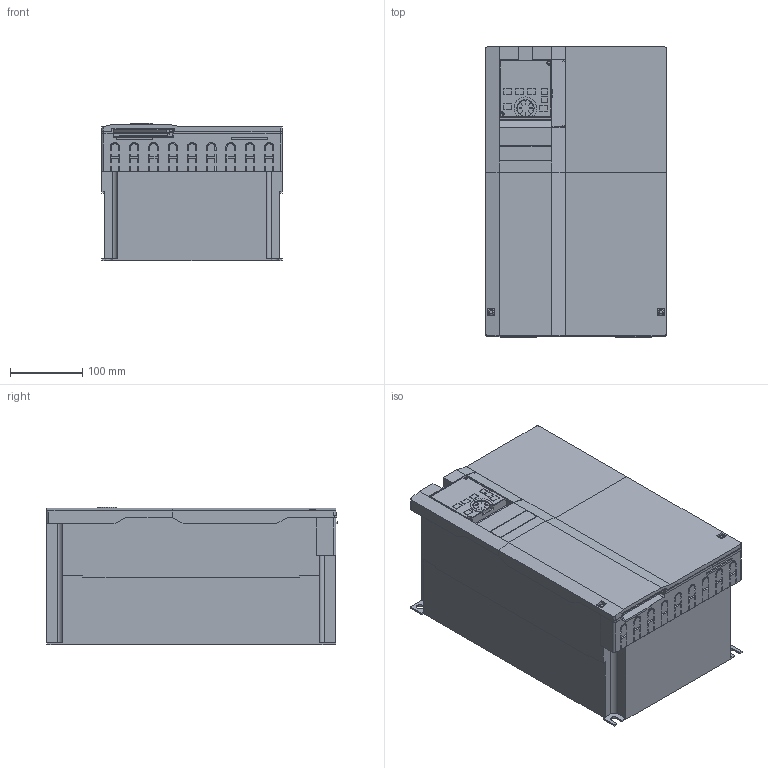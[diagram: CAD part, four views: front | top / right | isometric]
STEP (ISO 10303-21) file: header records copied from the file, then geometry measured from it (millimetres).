
FILE_DESCRIPTION((''),'2;1');
FILE_NAME('3D-INV-A8-01_08_ASM','2014-01-17T',('PZ79677'),(''),'PRO/ENGINEER BY PARAMETRIC TECHNOLOGY CORPORATION, 2011490','PRO/ENGINEER BY PARAMETRIC TECHNOLOGY CORPORATION, 2011490','');
FILE_SCHEMA(('CONFIG_CONTROL_DESIGN'));
Length unit declared in the file: millimetre
Products named in the file (22): 3D-BASE-A8-01_08; 3D-POWER-A8-01_08_ASM; 3D-FAN-92; 3D-FAN_COV-A8-01_08; 3D-TE_NEJI-M4X8_; 3D-TE_COV-R1S1_; 3D-TE_ASSY-A8-R1S1_ASM; 3D-TA-A8; 3D-A8-TA_ASM; 3D-SW-PW-P-M6X14_; 3D-DOT-P1-P-A8-01_08; 3D-TE_COV-A8-01_08; 3D-TE_ASSY-A8-01_07_ASM; 3D-SEN_COV-A8-01_08; 3D-P-M4X10_; 3D-SEN_COV-ASSY-A8-01_08_ASM; 3D-COV_UPR-A8-01_08; 3D-DU_ASSY-A8; 3D-IF_COV-A80; 3D-COV_UPR-A8-01_08_ASM; 3D-COV_LWR-A8-01_08; 3D-INV-A8-01_08_ASM
Assembly tree (38 placements, depth 3):
  3D-INV-A8-01_08_ASM
    3D-POWER-A8-01_08_ASM
      3D-BASE-A8-01_08
    3D-FAN-92  x2
    3D-FAN_COV-A8-01_08
    3D-TE_ASSY-A8-R1S1_ASM
      3D-TE_NEJI-M4X8_  x4
      3D-TE_COV-R1S1_
    3D-A8-TA_ASM
      3D-TA-A8
    3D-SW-PW-P-M6X14_  x2
    3D-TE_ASSY-A8-01_07_ASM
      3D-DOT-P1-P-A8-01_08
      3D-SW-PW-P-M6X14_  x11
      3D-TE_COV-A8-01_08
    3D-SEN_COV-ASSY-A8-01_08_ASM
      3D-SEN_COV-A8-01_08
      3D-P-M4X10_  x2
    3D-COV_UPR-A8-01_08_ASM
      3D-COV_UPR-A8-01_08
      3D-DU_ASSY-A8
      3D-IF_COV-A80
    3D-COV_LWR-A8-01_08
Bounding box: 250 x 402 x 190 mm (x, y, z)
Volume: 15334341.8 mm3; surface area: 1068994.3 mm2
Topology: 33 solids, 36 shells, 2558 faces, 6749 edges, 4420 vertices
Faces by surface type: plane 1856, cylinder 548, torus 60, sphere 48, cone 46
Entity records: 72203 total; most frequent: CARTESIAN_POINT 12609, ORIENTED_EDGE 12298, DIRECTION 11906, EDGE_CURVE 6149, VECTOR 5124, LINE 5124, VERTEX_POINT 4068, AXIS2_PLACEMENT_3D 3391
